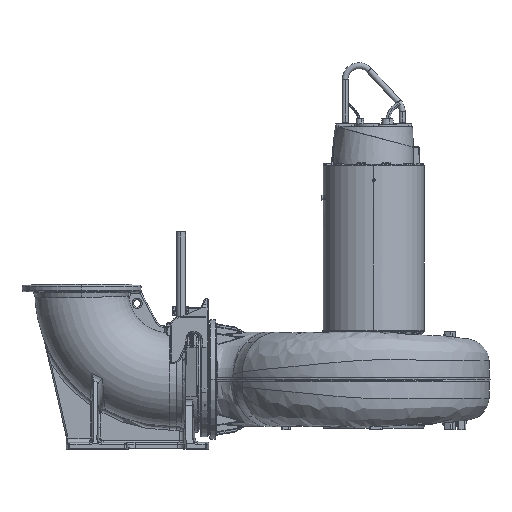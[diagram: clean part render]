
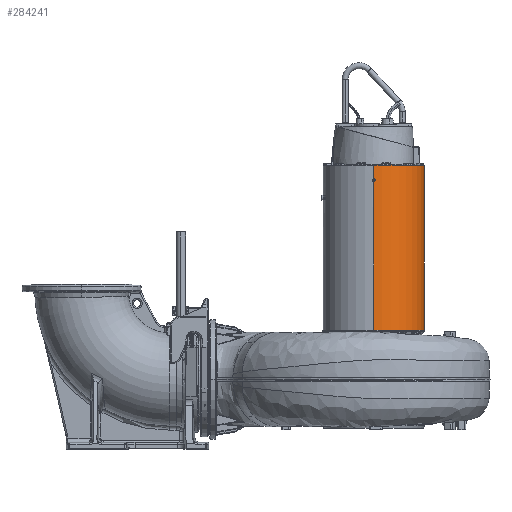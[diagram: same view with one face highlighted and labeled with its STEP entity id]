
A CAD part, top view. The second image highlights one B-rep face of the part: STEP entity #284241.
In plain terms, the highlighted cylindrical face has radius 344 mm (diameter 688 mm), a partial arc.
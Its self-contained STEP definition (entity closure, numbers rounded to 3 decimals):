
#3299 = VERTEX_POINT ( 'NONE', #225986 ) ;
#4048 = LINE ( 'NONE', #290102, #250320 ) ;
#5789 = DIRECTION ( 'NONE',  ( 0., 0., -1. ) ) ;
#12077 = EDGE_CURVE ( 'NONE', #22659, #277250, #86318, .T. ) ;
#14480 = LINE ( 'NONE', #22154, #202969 ) ;
#18052 = DIRECTION ( 'NONE',  ( 0., 1., 0. ) ) ;
#22154 = CARTESIAN_POINT ( 'NONE',  ( 1134.5, 1933.349, -343.869 ) ) ;
#22659 = VERTEX_POINT ( 'NONE', #210658 ) ;
#23675 = CARTESIAN_POINT ( 'NONE',  ( 1125., 1793., 0. ) ) ;
#25390 = ORIENTED_EDGE ( 'NONE', *, *, #305121, .T. ) ;
#26391 = ORIENTED_EDGE ( 'NONE', *, *, #135978, .F. ) ;
#27480 = CARTESIAN_POINT ( 'NONE',  ( 1131.334, 1700.313, -343.956 ) ) ;
#31811 = ORIENTED_EDGE ( 'NONE', *, *, #271372, .T. ) ;
#35113 = FACE_OUTER_BOUND ( 'NONE', #121540, .T. ) ;
#35844 = ORIENTED_EDGE ( 'NONE', *, *, #247556, .F. ) ;
#36495 = CARTESIAN_POINT ( 'NONE',  ( 1134.5, 1698.485, -343.869 ) ) ;
#39176 = ORIENTED_EDGE ( 'NONE', *, *, #224978, .T. ) ;
#41541 = AXIS2_PLACEMENT_3D ( 'NONE', #214850, #18052, #191048 ) ;
#48272 = DIRECTION ( 'NONE',  ( 0., 1., 0. ) ) ;
#48522 = DIRECTION ( 'NONE',  ( 0., 0., -1. ) ) ;
#48798 = VERTEX_POINT ( 'NONE', #36495 ) ;
#53221 =( BOUNDED_CURVE ( )  B_SPLINE_CURVE ( 3, ( #55107, #202323, #251821, #104643 ),
 .UNSPECIFIED., .F., .T. ) 
 B_SPLINE_CURVE_WITH_KNOTS ( ( 4, 4 ),
 ( 1.571, 1.598 ),
 .UNSPECIFIED. ) 
 CURVE ( )  GEOMETRIC_REPRESENTATION_ITEM ( )  RATIONAL_B_SPLINE_CURVE ( ( 1., 1., 1., 1. ) ) 
 REPRESENTATION_ITEM ( '' )  );
#54149 = EDGE_CURVE ( 'NONE', #234254, #224021, #138238, .T. ) ;
#54268 = VECTOR ( 'NONE', #166044, 1000. ) ;
#55107 = CARTESIAN_POINT ( 'NONE',  ( 1125., 1703.97, 344. ) ) ;
#55381 = ORIENTED_EDGE ( 'NONE', *, *, #54149, .F. ) ;
#75969 = CARTESIAN_POINT ( 'NONE',  ( 1125., 1703.97, -344. ) ) ;
#82154 = EDGE_CURVE ( 'NONE', #204790, #3299, #188585, .T. ) ;
#84168 = DIRECTION ( 'NONE',  ( 0., 1., 0. ) ) ;
#85940 = CARTESIAN_POINT ( 'NONE',  ( 1125., 1933.349, -344. ) ) ;
#86318 = LINE ( 'NONE', #195420, #274819 ) ;
#89577 = CARTESIAN_POINT ( 'NONE',  ( 1125., 1793., -344. ) ) ;
#93329 = DIRECTION ( 'NONE',  ( 0., -1., 0. ) ) ;
#95454 = LINE ( 'NONE', #85940, #226167 ) ;
#97347 = CARTESIAN_POINT ( 'NONE',  ( 1128.167, 1683.859, -344. ) ) ;
#104643 = CARTESIAN_POINT ( 'NONE',  ( 1134.5, 1698.485, 343.869 ) ) ;
#105660 = CARTESIAN_POINT ( 'NONE',  ( 1134.5, 1687.515, -343.869 ) ) ;
#121540 = EDGE_LOOP ( 'NONE', ( #256736, #142406, #39176, #267367, #213757, #35844, #25390, #55381, #26391, #176432, #31811, #292556 ) ) ;
#124688 = CARTESIAN_POINT ( 'NONE',  ( 1125., 1703.97, 344. ) ) ;
#127661 = CARTESIAN_POINT ( 'NONE',  ( 1134.5, 1687.515, 343.869 ) ) ;
#130429 = AXIS2_PLACEMENT_3D ( 'NONE', #300530, #153118, #5789 ) ;
#131969 = VERTEX_POINT ( 'NONE', #284102 ) ;
#135978 = EDGE_CURVE ( 'NONE', #155828, #234254, #184928, .T. ) ;
#137679 = EDGE_CURVE ( 'NONE', #48798, #204790, #14480, .T. ) ;
#138238 = CIRCLE ( 'NONE', #157779, 344. ) ;
#140414 = VERTEX_POINT ( 'NONE', #158745 ) ;
#140919 = CARTESIAN_POINT ( 'NONE',  ( 1125., 1793., 344. ) ) ;
#142406 = ORIENTED_EDGE ( 'NONE', *, *, #185432, .T. ) ;
#153118 = DIRECTION ( 'NONE',  ( 0., 1., 0. ) ) ;
#155828 = VERTEX_POINT ( 'NONE', #124688 ) ;
#157779 = AXIS2_PLACEMENT_3D ( 'NONE', #23675, #195676, #48522 ) ;
#158745 = CARTESIAN_POINT ( 'NONE',  ( 1125., 668., -344. ) ) ;
#164985 = CARTESIAN_POINT ( 'NONE',  ( 1125., 1933.349, 344. ) ) ;
#166044 = DIRECTION ( 'NONE',  ( 0., 1., 0. ) ) ;
#169256 =( BOUNDED_CURVE ( )  B_SPLINE_CURVE ( 3, ( #75969, #222113, #27480, #199496 ),
 .UNSPECIFIED., .F., .T. ) 
 B_SPLINE_CURVE_WITH_KNOTS ( ( 4, 4 ),
 ( 1.571, 1.598 ),
 .UNSPECIFIED. ) 
 CURVE ( )  GEOMETRIC_REPRESENTATION_ITEM ( )  RATIONAL_B_SPLINE_CURVE ( ( 1., 1., 1., 1. ) ) 
 REPRESENTATION_ITEM ( '' )  );
#174229 = CARTESIAN_POINT ( 'NONE',  ( 1125., 1682.03, 344. ) ) ;
#176432 = ORIENTED_EDGE ( 'NONE', *, *, #250164, .T. ) ;
#179707 = CARTESIAN_POINT ( 'NONE',  ( 1125., 1933.349, -344. ) ) ;
#180289 = VERTEX_POINT ( 'NONE', #199633 ) ;
#184928 = LINE ( 'NONE', #164985, #54268 ) ;
#184973 = EDGE_CURVE ( 'NONE', #186204, #277250, #224671, .T. ) ;
#185432 = EDGE_CURVE ( 'NONE', #22659, #140414, #318522, .T. ) ;
#186204 = VERTEX_POINT ( 'NONE', #251303 ) ;
#187018 = LINE ( 'NONE', #179707, #310307 ) ;
#188585 =( BOUNDED_CURVE ( )  B_SPLINE_CURVE ( 3, ( #215479, #240207, #97347, #269344 ),
 .UNSPECIFIED., .F., .T. ) 
 B_SPLINE_CURVE_WITH_KNOTS ( ( 4, 4 ),
 ( 1.543, 1.571 ),
 .UNSPECIFIED. ) 
 CURVE ( )  GEOMETRIC_REPRESENTATION_ITEM ( )  RATIONAL_B_SPLINE_CURVE ( ( 1., 1., 1., 1. ) ) 
 REPRESENTATION_ITEM ( '' )  );
#191048 = DIRECTION ( 'NONE',  ( 0., 0., -1. ) ) ;
#194160 = DIRECTION ( 'NONE',  ( 0., -1., 0. ) ) ;
#195420 = CARTESIAN_POINT ( 'NONE',  ( 1125., 1933.349, 344. ) ) ;
#195676 = DIRECTION ( 'NONE',  ( 0., 1., 0. ) ) ;
#199496 = CARTESIAN_POINT ( 'NONE',  ( 1134.5, 1698.485, -343.869 ) ) ;
#199633 = CARTESIAN_POINT ( 'NONE',  ( 1125., 1703.97, -344. ) ) ;
#202323 = CARTESIAN_POINT ( 'NONE',  ( 1128.167, 1702.141, 344. ) ) ;
#202969 = VECTOR ( 'NONE', #194160, 1000. ) ;
#204790 = VERTEX_POINT ( 'NONE', #105660 ) ;
#210658 = CARTESIAN_POINT ( 'NONE',  ( 1125., 668., 344. ) ) ;
#213757 = ORIENTED_EDGE ( 'NONE', *, *, #137679, .F. ) ;
#214850 = CARTESIAN_POINT ( 'NONE',  ( 1125., 1933.349, 0. ) ) ;
#215479 = CARTESIAN_POINT ( 'NONE',  ( 1134.5, 1687.515, -343.869 ) ) ;
#222113 = CARTESIAN_POINT ( 'NONE',  ( 1128.167, 1702.141, -344. ) ) ;
#224021 = VERTEX_POINT ( 'NONE', #89577 ) ;
#224671 =( BOUNDED_CURVE ( )  B_SPLINE_CURVE ( 3, ( #127661, #231880, #305133, #256661 ),
 .UNSPECIFIED., .F., .T. ) 
 B_SPLINE_CURVE_WITH_KNOTS ( ( 4, 4 ),
 ( 1.543, 1.571 ),
 .UNSPECIFIED. ) 
 CURVE ( )  GEOMETRIC_REPRESENTATION_ITEM ( )  RATIONAL_B_SPLINE_CURVE ( ( 1., 1., 1., 1. ) ) 
 REPRESENTATION_ITEM ( '' )  );
#224978 = EDGE_CURVE ( 'NONE', #140414, #3299, #187018, .T. ) ;
#225986 = CARTESIAN_POINT ( 'NONE',  ( 1125., 1682.03, -344. ) ) ;
#226167 = VECTOR ( 'NONE', #257843, 1000. ) ;
#231880 = CARTESIAN_POINT ( 'NONE',  ( 1131.334, 1685.687, 343.956 ) ) ;
#234254 = VERTEX_POINT ( 'NONE', #140919 ) ;
#240207 = CARTESIAN_POINT ( 'NONE',  ( 1131.334, 1685.687, -343.956 ) ) ;
#247556 = EDGE_CURVE ( 'NONE', #180289, #48798, #169256, .T. ) ;
#250164 = EDGE_CURVE ( 'NONE', #155828, #131969, #53221, .T. ) ;
#250320 = VECTOR ( 'NONE', #93329, 1000. ) ;
#251303 = CARTESIAN_POINT ( 'NONE',  ( 1134.5, 1687.515, 343.869 ) ) ;
#251821 = CARTESIAN_POINT ( 'NONE',  ( 1131.334, 1700.313, 343.956 ) ) ;
#256661 = CARTESIAN_POINT ( 'NONE',  ( 1125., 1682.03, 344. ) ) ;
#256736 = ORIENTED_EDGE ( 'NONE', *, *, #12077, .F. ) ;
#257843 = DIRECTION ( 'NONE',  ( 0., 1., 0. ) ) ;
#258241 = CYLINDRICAL_SURFACE ( 'NONE', #41541, 344. ) ;
#267367 = ORIENTED_EDGE ( 'NONE', *, *, #82154, .F. ) ;
#269344 = CARTESIAN_POINT ( 'NONE',  ( 1125., 1682.03, -344. ) ) ;
#271372 = EDGE_CURVE ( 'NONE', #131969, #186204, #4048, .T. ) ;
#274819 = VECTOR ( 'NONE', #48272, 1000. ) ;
#277250 = VERTEX_POINT ( 'NONE', #174229 ) ;
#284102 = CARTESIAN_POINT ( 'NONE',  ( 1134.5, 1698.485, 343.869 ) ) ;
#284241 = ADVANCED_FACE ( 'NONE', ( #35113 ), #258241, .T. ) ;
#290102 = CARTESIAN_POINT ( 'NONE',  ( 1134.5, 1933.349, 343.869 ) ) ;
#292556 = ORIENTED_EDGE ( 'NONE', *, *, #184973, .T. ) ;
#300530 = CARTESIAN_POINT ( 'NONE',  ( 1125., 668., 0. ) ) ;
#305121 = EDGE_CURVE ( 'NONE', #180289, #224021, #95454, .T. ) ;
#305133 = CARTESIAN_POINT ( 'NONE',  ( 1128.167, 1683.859, 344. ) ) ;
#310307 = VECTOR ( 'NONE', #84168, 1000. ) ;
#318522 = CIRCLE ( 'NONE', #130429, 344. ) ;
